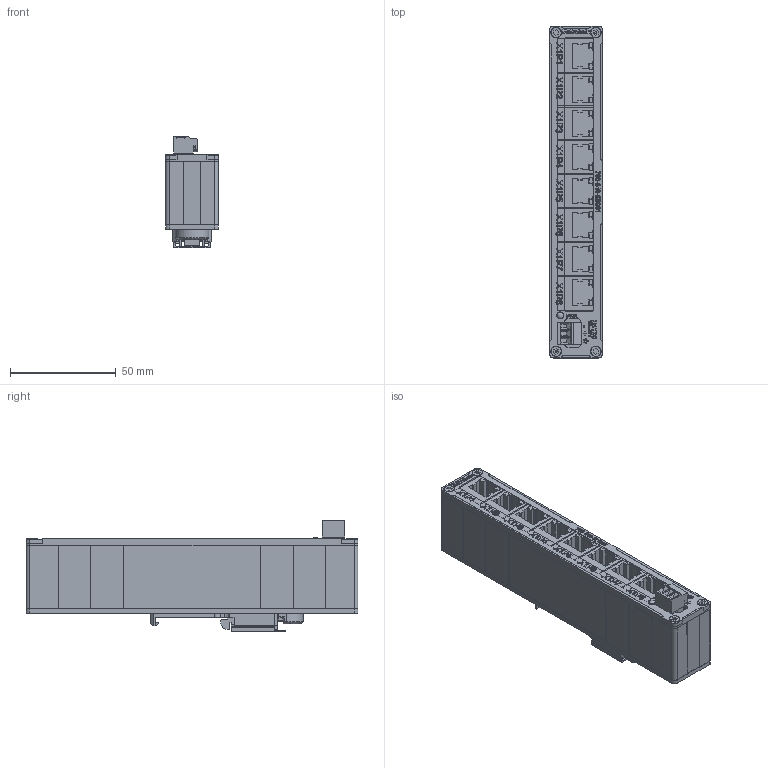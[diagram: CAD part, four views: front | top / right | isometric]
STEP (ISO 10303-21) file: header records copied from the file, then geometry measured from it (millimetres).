
FILE_DESCRIPTION (( 'STEP AP214' ), '1' );
FILE_NAME ('700-842-8ES01 V01-00 EPLAN.STEP', '2024-02-26T11:05:18', ( '' ), ( '' ), 'SwSTEP 2.0', 'SolidWorks 2023', '' );
FILE_SCHEMA (( 'AUTOMOTIVE_DESIGN' ));
Length unit declared in the file: millimetre
Products named in the file (15): RJ45 180° Dummy V00-00; BT-x-003-1-p-1-3,50; 700-842-8ES01 V01-00 EPLAN; TLM-clip-w35-18-2holes V00-00^700-842-5ES01 V00-00; 0209723506 V00-00; Kopie von Beschriftung forntpanel V00-00^700-842-8ES01 V01-00; BT-g-0045_V00-01; PS-g-0102_V00-00; PLP2-xxx_PLP2-100; BT-M-05041025-0023 V00-00; BT-g-0042_V00-00; PS-g-0101 V00-00; Base plate V00-00^TLM-clip-w35-18-2holes V00-00_700-842-5ES01 V00-00; Schieber V00-00^TLM-clip-w35-18-2holes V00-00_700-842-5ES01 V00-00; PS-g-0100_V00-00
Assembly tree (30 placements, depth 3):
  700-842-8ES01 V01-00 EPLAN
    PS-g-0100_V00-00
    BT-x-003-1-p-1-3,50
    Kopie von Beschriftung forntpanel V00-00^700-842-8ES01 V01-00
    PS-g-0101 V00-00
    PLP2-xxx_PLP2-100
    PS-g-0102_V00-00
    BT-g-0042_V00-00
    TLM-clip-w35-18-2holes V00-00^700-842-5ES01 V00-00
      Base plate V00-00^TLM-clip-w35-18-2holes V00-00_700-842-5ES01 V00-00
      Schieber V00-00^TLM-clip-w35-18-2holes V00-00_700-842-5ES01 V00-00
    BT-g-0045_V00-01
    0209723506 V00-00  x3
    BT-M-05041025-0023 V00-00  x8
    RJ45 180° Dummy V00-00  x8
Bounding box: 25 x 157 x 52.85 mm (x, y, z)
Volume: 60564.3 mm3; surface area: 65703.2 mm2
Topology: 107 solids, 107 shells, 2120 faces, 5455 edges, 3609 vertices
Faces by surface type: plane 1516, bspline 379, cylinder 172, cone 41, torus 9, sphere 3
Full cylindrical faces by diameter (mm): 1 x2, 1.3 x3, 2.3 x4, 2.5 x8, 2.65 x3, 2.8 x13, 2.95 x3, 3 x4, 3.5 x3, 4 x1, 4.7 x8, 7.3 x3
Entity records: 72071 total; most frequent: CARTESIAN_POINT 30021, ORIENTED_EDGE 8948, DIRECTION 6845, EDGE_CURVE 4474, LINE 3357, VECTOR 3357, VERTEX_POINT 3000, EDGE_LOOP 1948
